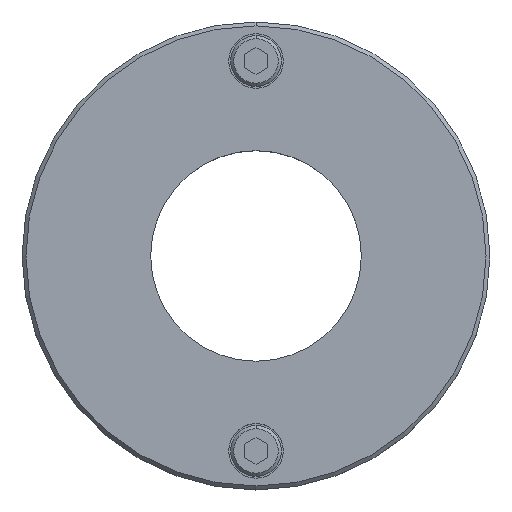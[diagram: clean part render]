
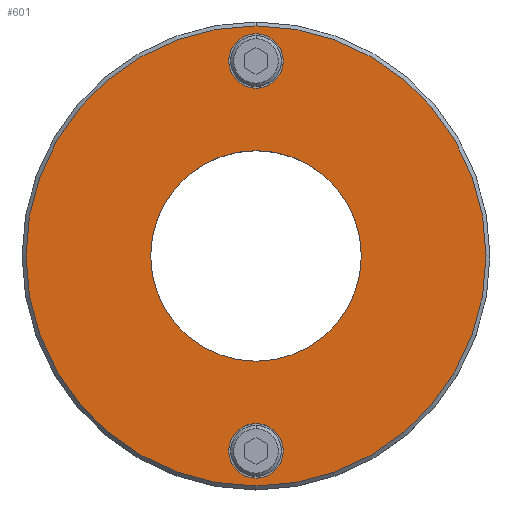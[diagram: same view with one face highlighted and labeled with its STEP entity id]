
A CAD part, top view. The second image highlights one B-rep face of the part: STEP entity #601.
In plain terms, the highlighted planar face has unit normal (0, 0, 1).
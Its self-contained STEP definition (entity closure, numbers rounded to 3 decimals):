
#124=VERTEX_POINT(' ',#125);
#125=CARTESIAN_POINT('',(0.,27.,15.));
#126=VERTEX_POINT(' ',#127);
#127=CARTESIAN_POINT('',(0.,-27.,15.));
#136=VERTEX_POINT(' ',#137);
#137=CARTESIAN_POINT('',(0.,57.,15.));
#138=VERTEX_POINT(' ',#139);
#139=CARTESIAN_POINT('',(0.,43.,15.));
#144=VERTEX_POINT(' ',#145);
#145=CARTESIAN_POINT('',(0.,-43.,15.));
#146=VERTEX_POINT(' ',#147);
#147=CARTESIAN_POINT('',(0.,-57.,15.));
#156=VERTEX_POINT(' ',#157);
#157=CARTESIAN_POINT('',(0.,59.,15.));
#158=VERTEX_POINT(' ',#159);
#159=CARTESIAN_POINT('',(0.,-59.,15.));
#218=CIRCLE('',#219,27.);
#219=AXIS2_PLACEMENT_3D('',#220,#221,#222);
#220=CARTESIAN_POINT('',(0.,0.,15.));
#221=DIRECTION('',(0.,0.,-1.));
#222=DIRECTION('',(-1.,0.,0.));
#223=EDGE_CURVE(' ',#124,#126,#218,.T.);
#224=CIRCLE('',#225,27.);
#225=AXIS2_PLACEMENT_3D('',#226,#227,#228);
#226=CARTESIAN_POINT('',(0.,0.,15.));
#227=DIRECTION('',(0.,0.,-1.));
#228=DIRECTION('',(1.,0.,0.));
#229=EDGE_CURVE(' ',#126,#124,#224,.T.);
#274=CIRCLE('',#275,7.);
#275=AXIS2_PLACEMENT_3D('',#276,#277,#278);
#276=CARTESIAN_POINT('',(0.,50.,15.));
#277=DIRECTION('',(0.,0.,1.));
#278=DIRECTION('',(1.,0.,0.));
#279=EDGE_CURVE(' ',#136,#138,#274,.T.);
#296=CIRCLE('',#297,7.);
#297=AXIS2_PLACEMENT_3D('',#298,#299,#300);
#298=CARTESIAN_POINT('',(0.,50.,15.));
#299=DIRECTION('',(0.,0.,1.));
#300=DIRECTION('',(-1.,0.,0.));
#301=EDGE_CURVE(' ',#138,#136,#296,.T.);
#308=CIRCLE('',#309,7.);
#309=AXIS2_PLACEMENT_3D('',#310,#311,#312);
#310=CARTESIAN_POINT('',(0.,-50.,15.));
#311=DIRECTION('',(0.,0.,1.));
#312=DIRECTION('',(1.,0.,0.));
#313=EDGE_CURVE(' ',#144,#146,#308,.T.);
#330=CIRCLE('',#331,7.);
#331=AXIS2_PLACEMENT_3D('',#332,#333,#334);
#332=CARTESIAN_POINT('',(0.,-50.,15.));
#333=DIRECTION('',(0.,0.,1.));
#334=DIRECTION('',(-1.,0.,0.));
#335=EDGE_CURVE(' ',#146,#144,#330,.T.);
#364=CIRCLE('',#365,59.);
#365=AXIS2_PLACEMENT_3D('',#366,#367,#368);
#366=CARTESIAN_POINT('',(0.,0.,15.));
#367=DIRECTION('',(0.,0.,1.));
#368=DIRECTION('',(1.,0.,0.));
#369=EDGE_CURVE(' ',#158,#156,#364,.F.);
#370=CIRCLE('',#371,59.);
#371=AXIS2_PLACEMENT_3D('',#372,#373,#374);
#372=CARTESIAN_POINT('',(0.,0.,15.));
#373=DIRECTION('',(0.,0.,1.));
#374=DIRECTION('',(-1.,0.,0.));
#375=EDGE_CURVE(' ',#156,#158,#370,.F.);
#580=ORIENTED_EDGE('',*,*,#369,.F.);
#581=ORIENTED_EDGE('',*,*,#375,.F.);
#582=EDGE_LOOP('',(#580,#581));
#583=FACE_OUTER_BOUND('',#582,.T.);
#584=ORIENTED_EDGE('',*,*,#335,.F.);
#585=ORIENTED_EDGE('',*,*,#313,.F.);
#586=EDGE_LOOP('',(#584,#585));
#587=FACE_BOUND('',#586,.T.);
#588=ORIENTED_EDGE('',*,*,#301,.F.);
#589=ORIENTED_EDGE('',*,*,#279,.F.);
#590=EDGE_LOOP('',(#588,#589));
#591=FACE_BOUND('',#590,.T.);
#592=ORIENTED_EDGE('',*,*,#223,.T.);
#593=ORIENTED_EDGE('',*,*,#229,.T.);
#594=EDGE_LOOP('',(#592,#593));
#595=FACE_BOUND('',#594,.T.);
#596=PLANE('',#597);
#597=AXIS2_PLACEMENT_3D('',#598,#599,#600);
#598=CARTESIAN_POINT('',(60.,0.,15.));
#599=DIRECTION('',(0.,0.,1.));
#600=DIRECTION('',(0.,1.,0.));
#601=ADVANCED_FACE('',(#583,#587,#591,#595),#596,.T.);
